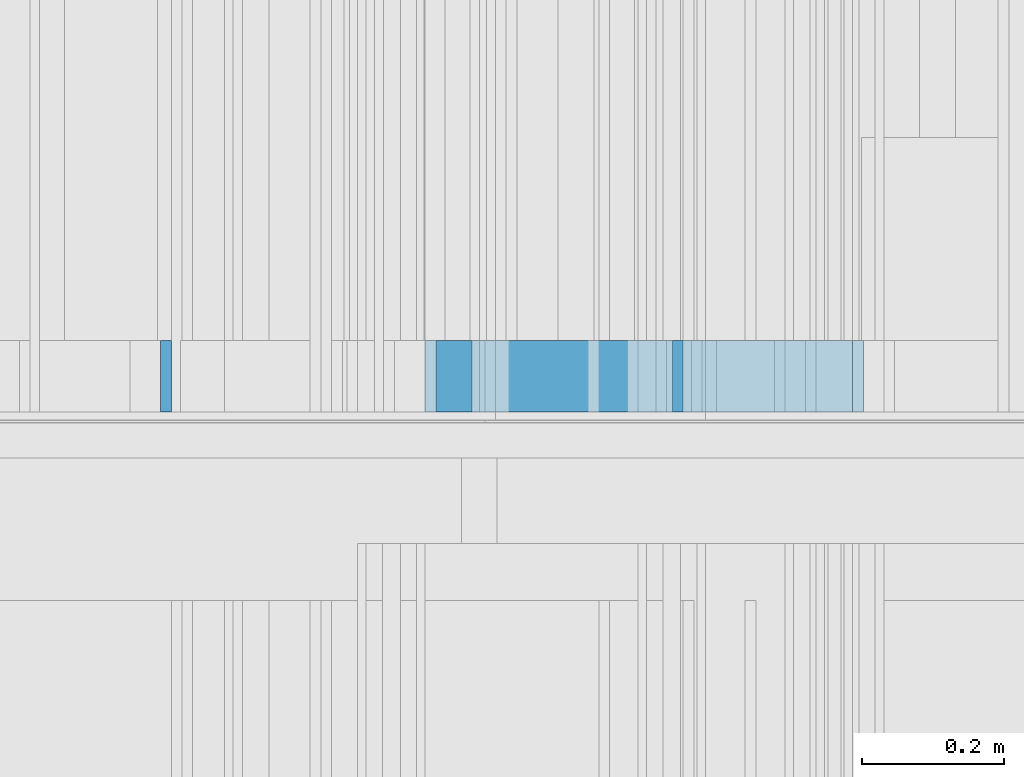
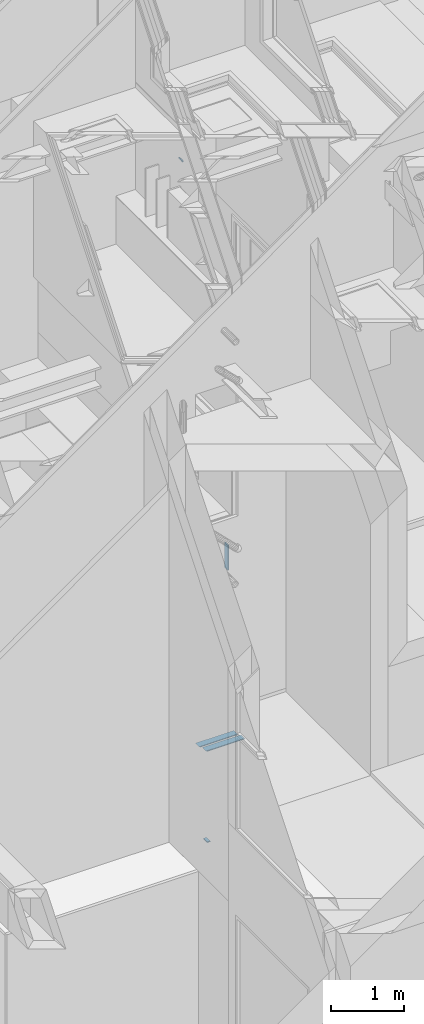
# One storey, part 204 of 583: 5 building element parts, 4 elements without a shape of their own.
"""IFC2X3 building model written with IfcOpenShell, lengths in metres."""

from ifc_helpers import new_model, entity, si_unit, converted_unit, derived_unit, money_unit, direction, frame, frame_2d, origin_with_axes, place, context, subcontext, project, spatial, polyline, rectangle, outline, extrude, material, type_object, element, aggregate, save


model = new_model("IFC2X3")

# Units and contexts
model_context = context("Model", 3, precision=1e-05, world=origin_with_axes(), true_north=direction((0.0, 1.0)))
body_context = subcontext(model_context, "Body", "Model", "MODEL_VIEW", scale=1.0)
ifc_project = project(units=[si_unit("LENGTHUNIT", "METRE"), si_unit("AREAUNIT", "SQUARE_METRE"), si_unit("VOLUMEUNIT", "CUBIC_METRE"), si_unit("ABSORBEDDOSEUNIT", "GRAY"), si_unit("AMOUNTOFSUBSTANCEUNIT", "MOLE"), si_unit("DOSEEQUIVALENTUNIT", "SIEVERT"), si_unit("ELECTRICCAPACITANCEUNIT", "FARAD"), si_unit("ELECTRICCHARGEUNIT", "COULOMB"), si_unit("ELECTRICCONDUCTANCEUNIT", "SIEMENS"), si_unit("ELECTRICCURRENTUNIT", "AMPERE"), si_unit("ELECTRICRESISTANCEUNIT", "OHM"), si_unit("ELECTRICVOLTAGEUNIT", "VOLT"), si_unit("ENERGYUNIT", "JOULE"), si_unit("FORCEUNIT", "NEWTON"), si_unit("FREQUENCYUNIT", "HERTZ"), si_unit("ILLUMINANCEUNIT", "LUX"), si_unit("INDUCTANCEUNIT", "HENRY"), si_unit("LUMINOUSFLUXUNIT", "LUMEN"), si_unit("LUMINOUSINTENSITYUNIT", "CANDELA"), si_unit("MAGNETICFLUXDENSITYUNIT", "TESLA"), si_unit("MAGNETICFLUXUNIT", "WEBER"), si_unit("MASSUNIT", "GRAM"), converted_unit("PLANEANGLEUNIT", "degree", entity("IfcReal", 0.0174532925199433), si_unit("PLANEANGLEUNIT", "RADIAN"), dimensions=[0, 0, 0, 0, 0, 0, 0]), si_unit("POWERUNIT", "WATT"), si_unit("PRESSUREUNIT", "PASCAL"), si_unit("RADIOACTIVITYUNIT", "BECQUEREL"), si_unit("SOLIDANGLEUNIT", "STERADIAN"), si_unit("THERMODYNAMICTEMPERATUREUNIT", "KELVIN"), si_unit("TIMEUNIT", "SECOND"), derived_unit("ACCELERATIONUNIT", [(si_unit("LENGTHUNIT", "METRE"), 1), (si_unit("TIMEUNIT", "SECOND"), -2)]), derived_unit("ANGULARVELOCITYUNIT", [(converted_unit("PLANEANGLEUNIT", "degree", entity("IfcReal", 0.0174532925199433), si_unit("PLANEANGLEUNIT", "RADIAN"), dimensions=[0, 0, 0, 0, 0, 0, 0]), 1), (si_unit("TIMEUNIT", "SECOND"), -1)]), derived_unit("CURVATUREUNIT", [(converted_unit("PLANEANGLEUNIT", "degree", entity("IfcReal", 0.0174532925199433), si_unit("PLANEANGLEUNIT", "RADIAN"), dimensions=[0, 0, 0, 0, 0, 0, 0]), 1), (si_unit("LENGTHUNIT", "METRE"), -1)]), derived_unit("DYNAMICVISCOSITYUNIT", [(si_unit("PRESSUREUNIT", "PASCAL"), 1), (si_unit("TIMEUNIT", "SECOND"), 1)]), derived_unit("HEATFLUXDENSITYUNIT", [(si_unit("POWERUNIT", "WATT"), 1), (si_unit("LENGTHUNIT", "METRE"), -2)]), derived_unit("HEATINGVALUEUNIT", [(si_unit("ENERGYUNIT", "JOULE"), 1), (si_unit("MASSUNIT", "GRAM"), -1)]), derived_unit("INTEGERCOUNTRATEUNIT", [(si_unit("TIMEUNIT", "SECOND"), -1)]), derived_unit("IONCONCENTRATIONUNIT", [(si_unit("MASSUNIT", "GRAM"), 1), (si_unit("VOLUMEUNIT", "CUBIC_METRE"), -1)]), derived_unit("ISOTHERMALMOISTURECAPACITYUNIT", [(si_unit("VOLUMEUNIT", "CUBIC_METRE"), 1), (si_unit("MASSUNIT", "GRAM"), -1)]), derived_unit("KINEMATICVISCOSITYUNIT", [(si_unit("AREAUNIT", "SQUARE_METRE"), 1), (si_unit("TIMEUNIT", "SECOND"), -1)]), derived_unit("LINEARFORCEUNIT", [(si_unit("FORCEUNIT", "NEWTON"), 1), (si_unit("LENGTHUNIT", "METRE"), -1)]), derived_unit("LINEARMOMENTUNIT", [(si_unit("FORCEUNIT", "NEWTON"), 1), (si_unit("LENGTHUNIT", "METRE"), -1)]), derived_unit("LINEARSTIFFNESSUNIT", [(si_unit("FORCEUNIT", "NEWTON"), 1), (si_unit("LENGTHUNIT", "METRE"), -1)]), derived_unit("LINEARVELOCITYUNIT", [(si_unit("LENGTHUNIT", "METRE"), 1), (si_unit("TIMEUNIT", "SECOND"), -1)]), derived_unit("LUMINOUSINTENSITYDISTRIBUTIONUNIT", [(si_unit("LUMINOUSINTENSITYUNIT", "CANDELA"), 1), (si_unit("LUMINOUSFLUXUNIT", "LUMEN"), -1)]), derived_unit("MASSDENSITYUNIT", [(si_unit("MASSUNIT", "GRAM"), 1), (si_unit("VOLUMEUNIT", "CUBIC_METRE"), -1)]), derived_unit("MASSFLOWRATEUNIT", [(si_unit("MASSUNIT", "GRAM"), 1), (si_unit("TIMEUNIT", "SECOND"), -1)]), derived_unit("MASSPERLENGTHUNIT", [(si_unit("MASSUNIT", "GRAM"), 1), (si_unit("LENGTHUNIT", "METRE"), -1)]), derived_unit("MODULUSOFELASTICITYUNIT", [(si_unit("FORCEUNIT", "NEWTON"), 1), (si_unit("AREAUNIT", "SQUARE_METRE"), -1)]), derived_unit("MODULUSOFLINEARSUBGRADEREACTIONUNIT", [(si_unit("FORCEUNIT", "NEWTON"), 1), (si_unit("LENGTHUNIT", "METRE"), -2)]), derived_unit("MODULUSOFROTATIONALSUBGRADEREACTIONUNIT", [(si_unit("FORCEUNIT", "NEWTON"), 1), (si_unit("LENGTHUNIT", "METRE"), 1)]), derived_unit("MODULUSOFSUBGRADEREACTIONUNIT", [(si_unit("FORCEUNIT", "NEWTON"), 1), (si_unit("VOLUMEUNIT", "CUBIC_METRE"), -1)]), derived_unit("MOISTUREDIFFUSIVITYUNIT", [(si_unit("VOLUMEUNIT", "CUBIC_METRE"), 1), (si_unit("TIMEUNIT", "SECOND"), -1)]), derived_unit("MOLECULARWEIGHTUNIT", [(si_unit("MASSUNIT", "GRAM"), 1), (si_unit("AMOUNTOFSUBSTANCEUNIT", "MOLE"), -1)]), derived_unit("PLANARFORCEUNIT", [(si_unit("FORCEUNIT", "NEWTON"), 1), (si_unit("LENGTHUNIT", "METRE"), -2)]), derived_unit("ROTATIONALFREQUENCYUNIT", [(si_unit("TIMEUNIT", "SECOND"), -1)]), derived_unit("ROTATIONALMASSUNIT", [(si_unit("MASSUNIT", "GRAM"), 1), (si_unit("LENGTHUNIT", "METRE"), 2)]), derived_unit("ROTATIONALSTIFFNESSUNIT", [(si_unit("FORCEUNIT", "NEWTON"), 1), (si_unit("LENGTHUNIT", "METRE"), 1), (converted_unit("PLANEANGLEUNIT", "degree", entity("IfcReal", 0.0174532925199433), si_unit("PLANEANGLEUNIT", "RADIAN"), dimensions=[0, 0, 0, 0, 0, 0, 0]), -1)]), derived_unit("SECTIONAREAINTEGRALUNIT", [(si_unit("LENGTHUNIT", "METRE"), 5)]), derived_unit("SECTIONMODULUSUNIT", [(si_unit("LENGTHUNIT", "METRE"), 3)]), derived_unit("SHEARMODULUSUNIT", [(si_unit("FORCEUNIT", "NEWTON"), 1), (si_unit("AREAUNIT", "SQUARE_METRE"), -1)]), derived_unit("SOUNDPOWERUNIT", [(si_unit("ENERGYUNIT", "JOULE"), 1), (si_unit("TIMEUNIT", "SECOND"), -1)]), derived_unit("SPECIFICHEATCAPACITYUNIT", [(si_unit("FORCEUNIT", "NEWTON"), 1), (si_unit("MASSUNIT", "GRAM"), -1), (si_unit("THERMODYNAMICTEMPERATUREUNIT", "KELVIN"), -1)]), derived_unit("TEMPERATUREGRADIENTUNIT", [(si_unit("THERMODYNAMICTEMPERATUREUNIT", "KELVIN"), 1), (si_unit("LENGTHUNIT", "METRE"), -1)]), derived_unit("THERMALADMITTANCEUNIT", [(si_unit("POWERUNIT", "WATT"), 1), (si_unit("AREAUNIT", "SQUARE_METRE"), -1), (si_unit("THERMODYNAMICTEMPERATUREUNIT", "KELVIN"), -1)]), derived_unit("THERMALCONDUCTANCEUNIT", [(si_unit("POWERUNIT", "WATT"), 1), (si_unit("LENGTHUNIT", "METRE"), -1), (si_unit("THERMODYNAMICTEMPERATUREUNIT", "KELVIN"), -1)]), derived_unit("THERMALEXPANSIONCOEFFICIENTUNIT", [(si_unit("THERMODYNAMICTEMPERATUREUNIT", "KELVIN"), -1)]), derived_unit("THERMALRESISTANCEUNIT", [(si_unit("AREAUNIT", "SQUARE_METRE"), 1), (si_unit("POWERUNIT", "WATT"), -1)]), derived_unit("THERMALTRANSMITTANCEUNIT", [(si_unit("POWERUNIT", "WATT"), 1), (si_unit("AREAUNIT", "SQUARE_METRE"), -1), (si_unit("THERMODYNAMICTEMPERATUREUNIT", "KELVIN"), -1)]), derived_unit("TORQUEUNIT", [(si_unit("FORCEUNIT", "NEWTON"), 1), (si_unit("LENGTHUNIT", "METRE"), 1)]), derived_unit("VAPORPERMEABILITYUNIT", [(si_unit("MASSUNIT", "GRAM"), 1), (si_unit("TIMEUNIT", "SECOND"), -1)]), derived_unit("VOLUMETRICFLOWRATEUNIT", [(si_unit("VOLUMEUNIT", "CUBIC_METRE"), 1), (si_unit("TIMEUNIT", "SECOND"), -1)]), derived_unit("WARPINGCONSTANTUNIT", [(si_unit("LENGTHUNIT", "METRE"), 6)]), derived_unit("WARPINGMOMENTUNIT", [(si_unit("FORCEUNIT", "NEWTON"), 1), (si_unit("LENGTHUNIT", "METRE"), 2)]), money_unit("GBP")], contexts=[model_context])

# Site, building, storey
site_placement = place(None, origin_with_axes())
site = spatial("IfcSite", under=ifc_project, at=site_placement, Name="Site", CompositionType="ELEMENT")
building_placement = place(site_placement, origin_with_axes())
building = spatial("IfcBuilding", under=site, at=building_placement, Name="Building01", CompositionType="ELEMENT")
storey_placement = place(building_placement, frame((0.0, 0.0, 20.78), z_axis=(0.0, 0.0, 1.0), x_axis=(1.0, 0.0, 0.0)))
storey = spatial("IfcBuildingStorey", under=building, at=storey_placement, Name="RL", CompositionType="ELEMENT", Elevation=20.78)

# Wall, building element part
wall_type_1 = type_object("IfcWallType", Name="SHE_A-Walls_Type05a_Partition_95mm_tall", PredefinedType="NOTDEFINED")
wall_1_placement = place(storey_placement, frame((6.571475, 8.64, -16.57427), z_axis=(0.0, 1.0, 0.0), x_axis=(1.0, 0.0, 0.0)))
wall_1 = element("IfcWall", 1, at=wall_1_placement, inside=storey, type_object=wall_type_1, Name="5A", ObjectType="SHE_A-Walls_Type05a_Partition_95mm_tall")
ifc_material = material(Name="A_BSUK_Walls_Timber")
building_element_part_1_placement = place(wall_1_placement, origin_with_axes())
building_element_part_1 = element("IfcBuildingElementPart", 2, at=building_element_part_1_placement, material=ifc_material, Name="3", context=body_context, shape_type="SweptSolid", body=[
    extrude(rectangle(XDim=0.015, YDim=0.050695, at=frame_2d((0.075347, -0.0425), x_axis=(0.0, -1.0))), frame((0.0, 0.0, 0.015), z_axis=(0.0, 0.0, 1.0), x_axis=(1.0, 0.0, 0.0)), (0.0, 0.0, 1.0), 0.1),
])
aggregate(wall_1, [building_element_part_1])

wall_type_2 = type_object("IfcWallType", Name="SHE_A-Walls_Type04a_BlockworkWall_130mm", PredefinedType="NOTDEFINED")
wall_2_placement = place(storey_placement, frame((8.665, 8.64, -5.065), z_axis=(0.0, 1.0, 0.0), x_axis=(-1.0, 0.0, 0.0)))
wall_2 = element("IfcWall", 3, at=wall_2_placement, inside=storey, type_object=wall_type_2, Name="4A", ObjectType="SHE_A-Walls_Type04a_BlockworkWall_130mm")
building_element_part_2_placement = place(wall_2_placement, origin_with_axes())
building_element_part_2 = element("IfcBuildingElementPart", 4, at=building_element_part_2_placement, material=ifc_material, Name="5", context=body_context, shape_type="SweptSolid", body=[
    extrude(rectangle(XDim=0.015, YDim=0.015, at=frame_2d((2.4225, -0.0225), x_axis=(0.0, -1.0))), frame((0.0, 0.0, 0.015), z_axis=(0.0, 0.0, 1.0), x_axis=(1.0, 0.0, 0.0)), (0.0, 0.0, 1.0), 0.1),
])
aggregate(wall_2, [building_element_part_2])

wall_type_3 = type_object("IfcWallType", Name="SHE_A-Walls_Type04c_RiserWall_102mm_tall", PredefinedType="NOTDEFINED")
wall_3_placement = place(storey_placement, frame((6.968405, 8.655, -11.72), z_axis=(0.0, 1.0, 0.0), x_axis=(0.0, 0.0, -1.0)))
wall_3 = element("IfcWall", 5, at=wall_3_placement, inside=storey, type_object=wall_type_3, Name="4C", ObjectType="SHE_A-Walls_Type04c_RiserWall_102mm_tall")
building_element_part_3_placement = place(wall_3_placement, origin_with_axes())
building_element_part_3 = element("IfcBuildingElementPart", 6, at=building_element_part_3_placement, material=ifc_material, Name="1", context=body_context, shape_type="SweptSolid", body=[
    extrude(outline(polyline([(0.417, 0.015), (0.0, 0.015), (0.0, 0.0), (0.402, 0.0), (0.417, 0.015)])), origin_with_axes(), (0.0, 0.0, 1.0), 0.1),
])
aggregate(wall_3, [building_element_part_3])

# Wall, building element parts
wall_4_placement = place(storey_placement, frame((6.571475, 8.64, -14.975331), z_axis=(0.0, 1.0, 0.0), x_axis=(1.0, 0.0, 0.0)))
wall_4 = element("IfcWall", 7, at=wall_4_placement, inside=storey, type_object=wall_type_1, Name="5A", ObjectType="SHE_A-Walls_Type05a_Partition_95mm_tall")
placement = place(wall_4_placement, origin_with_axes())
building_element_part_4 = element("IfcBuildingElementPart", 8, at=placement, material=ifc_material, Name="2", context=body_context, shape_type="SweptSolid", body=[
    extrude(outline(polyline([(0.54, -0.06), (-0.06, -0.06), (-0.075, -0.075), (0.525, -0.075), (0.54, -0.06)])), frame((0.0, 0.0, 0.015), z_axis=(0.0, 0.0, 1.0), x_axis=(1.0, 0.0, 0.0)), (0.0, 0.0, 1.0), 0.1),
])
building_element_part_5 = element("IfcBuildingElementPart", 9, at=placement, material=ifc_material, Name="3", context=body_context, shape_type="SweptSolid", body=[
    extrude(outline(polyline([(0.65, 0.05), (0.05, 0.05), (0.035, 0.035), (0.635, 0.035), (0.65, 0.05)])), frame((0.0, 0.0, 0.015), z_axis=(0.0, 0.0, 1.0), x_axis=(1.0, 0.0, 0.0)), (0.0, 0.0, 1.0), 0.1),
])
aggregate(wall_4, [building_element_part_4, building_element_part_5])

save(model, "model.ifc")
